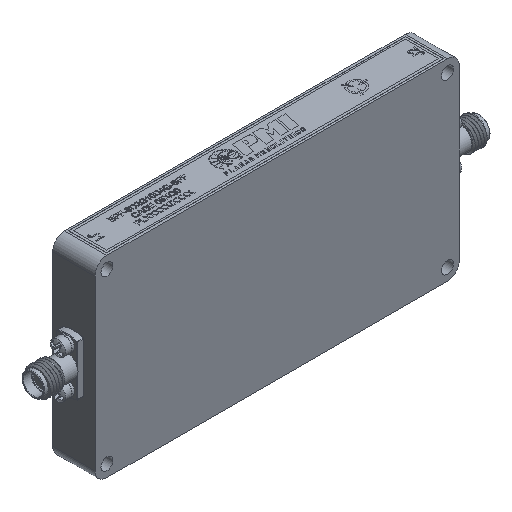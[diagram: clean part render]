
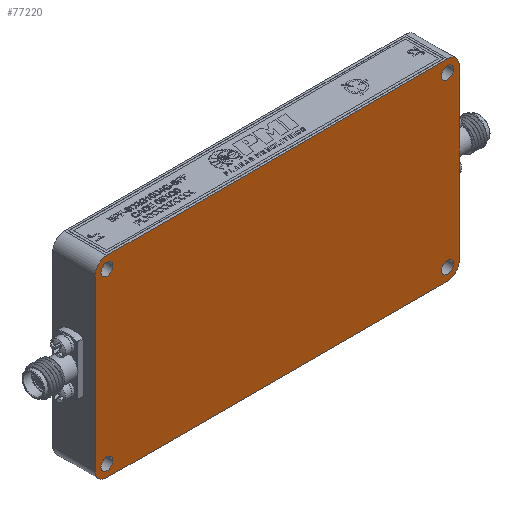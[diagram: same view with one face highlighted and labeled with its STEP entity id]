
A CAD part, isometric view. The second image highlights one B-rep face of the part: STEP entity #77220.
In plain terms, the highlighted planar face has unit normal (0, -1, 0).
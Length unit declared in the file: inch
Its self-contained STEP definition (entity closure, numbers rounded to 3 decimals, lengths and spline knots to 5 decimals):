
#216 = EDGE_LOOP ( 'NONE', ( #98102 ) ) ;
#788 = CARTESIAN_POINT ( 'NONE',  ( 1.565, -0.195, -0.775 ) ) ;
#1784 = CARTESIAN_POINT ( 'NONE',  ( -1.565, -0.195, -0.775 ) ) ;
#2622 = ORIENTED_EDGE ( 'NONE', *, *, #57737, .T. ) ;
#2952 = CARTESIAN_POINT ( 'NONE',  ( -1.675, -0.195, 0.775 ) ) ;
#3123 = AXIS2_PLACEMENT_3D ( 'NONE', #46114, #77394, #7292 ) ;
#5488 = AXIS2_PLACEMENT_3D ( 'NONE', #788, #31910, #25223 ) ;
#7123 = CARTESIAN_POINT ( 'NONE',  ( 1.565, -0.195, 0.83 ) ) ;
#7156 = FACE_BOUND ( 'NONE', #29435, .T. ) ;
#7292 = DIRECTION ( 'NONE',  ( 0., 0., 1. ) ) ;
#8162 = PLANE ( 'NONE',  #32222 ) ;
#9405 = AXIS2_PLACEMENT_3D ( 'NONE', #1784, #32916, #95381 ) ;
#10302 = CIRCLE ( 'NONE', #5488, 0.11 ) ;
#11641 = CIRCLE ( 'NONE', #27942, 0.055 ) ;
#11966 = VERTEX_POINT ( 'NONE', #28388 ) ;
#13132 = AXIS2_PLACEMENT_3D ( 'NONE', #17347, #55175, #16839 ) ;
#14658 = CARTESIAN_POINT ( 'NONE',  ( 1.675, -0.195, 0.775 ) ) ;
#15257 = CARTESIAN_POINT ( 'NONE',  ( -1.675, -0.195, 0.885 ) ) ;
#15273 = EDGE_CURVE ( 'NONE', #87239, #20211, #53083, .T. ) ;
#15986 = DIRECTION ( 'NONE',  ( 0., 1., 0. ) ) ;
#16561 = ORIENTED_EDGE ( 'NONE', *, *, #15273, .F. ) ;
#16839 = DIRECTION ( 'NONE',  ( 0., 0., 1. ) ) ;
#16848 = VECTOR ( 'NONE', #26210, 39.37008 ) ;
#17347 = CARTESIAN_POINT ( 'NONE',  ( -1.565, -0.195, -0.775 ) ) ;
#18791 = CARTESIAN_POINT ( 'NONE',  ( 1.565, -0.195, 0.885 ) ) ;
#18890 = DIRECTION ( 'NONE',  ( 0., -1., 0. ) ) ;
#20034 = LINE ( 'NONE', #35923, #16848 ) ;
#20211 = VERTEX_POINT ( 'NONE', #18791 ) ;
#20969 = CIRCLE ( 'NONE', #3123, 0.055 ) ;
#22967 = FACE_OUTER_BOUND ( 'NONE', #44374, .T. ) ;
#24127 = EDGE_CURVE ( 'NONE', #80388, #20211, #87449, .T. ) ;
#24400 = VERTEX_POINT ( 'NONE', #70010 ) ;
#25223 = DIRECTION ( 'NONE',  ( 0., 0., 1. ) ) ;
#26210 = DIRECTION ( 'NONE',  ( -1., 0., 0. ) ) ;
#27942 = AXIS2_PLACEMENT_3D ( 'NONE', #44652, #29268, #99941 ) ;
#28388 = CARTESIAN_POINT ( 'NONE',  ( 1.565, -0.195, -0.885 ) ) ;
#29268 = DIRECTION ( 'NONE',  ( 0., 1., 0. ) ) ;
#29435 = EDGE_LOOP ( 'NONE', ( #36887 ) ) ;
#31126 = CARTESIAN_POINT ( 'NONE',  ( 1.565, -0.195, -0.72 ) ) ;
#31910 = DIRECTION ( 'NONE',  ( 0., -1., 0. ) ) ;
#32222 = AXIS2_PLACEMENT_3D ( 'NONE', #48527, #34183, #71589 ) ;
#32916 = DIRECTION ( 'NONE',  ( 0., 1., 0. ) ) ;
#33242 = DIRECTION ( 'NONE',  ( 0., 0., 1. ) ) ;
#33575 = ORIENTED_EDGE ( 'NONE', *, *, #74613, .F. ) ;
#34183 = DIRECTION ( 'NONE',  ( 0., 1., 0. ) ) ;
#35446 = VERTEX_POINT ( 'NONE', #83778 ) ;
#35923 = CARTESIAN_POINT ( 'NONE',  ( -1.675, -0.195, -0.885 ) ) ;
#36887 = ORIENTED_EDGE ( 'NONE', *, *, #53190, .T. ) ;
#37317 = VERTEX_POINT ( 'NONE', #87546 ) ;
#38323 = VERTEX_POINT ( 'NONE', #31126 ) ;
#40014 = AXIS2_PLACEMENT_3D ( 'NONE', #89059, #18890, #33242 ) ;
#40270 = EDGE_CURVE ( 'NONE', #80388, #35446, #53803, .T. ) ;
#42345 = EDGE_CURVE ( 'NONE', #24400, #37317, #44163, .T. ) ;
#43568 = AXIS2_PLACEMENT_3D ( 'NONE', #65398, #96131, #86968 ) ;
#44163 = CIRCLE ( 'NONE', #13132, 0.11 ) ;
#44374 = EDGE_LOOP ( 'NONE', ( #33575, #89341, #90861, #84568, #87476, #73692, #16561, #45945 ) ) ;
#44652 = CARTESIAN_POINT ( 'NONE',  ( 1.565, -0.195, -0.775 ) ) ;
#45170 = DIRECTION ( 'NONE',  ( 0., 0., -1. ) ) ;
#45244 = DIRECTION ( 'NONE',  ( 0., 0., 1. ) ) ;
#45945 = ORIENTED_EDGE ( 'NONE', *, *, #61820, .T. ) ;
#45994 = FACE_BOUND ( 'NONE', #98449, .T. ) ;
#46114 = CARTESIAN_POINT ( 'NONE',  ( -1.565, -0.195, 0.775 ) ) ;
#46482 = VERTEX_POINT ( 'NONE', #7123 ) ;
#47011 = FACE_BOUND ( 'NONE', #216, .T. ) ;
#47108 = CARTESIAN_POINT ( 'NONE',  ( -1.565, -0.195, -0.72 ) ) ;
#48527 = CARTESIAN_POINT ( 'NONE',  ( 0., -0.195, 0. ) ) ;
#49952 = VECTOR ( 'NONE', #84413, 39.37008 ) ;
#50786 = AXIS2_PLACEMENT_3D ( 'NONE', #55325, #15986, #93299 ) ;
#53083 = LINE ( 'NONE', #15257, #49952 ) ;
#53190 = EDGE_CURVE ( 'NONE', #71066, #71066, #20969, .T. ) ;
#53433 = CIRCLE ( 'NONE', #9405, 0.055 ) ;
#53803 = LINE ( 'NONE', #85154, #75496 ) ;
#54103 = CARTESIAN_POINT ( 'NONE',  ( -1.565, -0.195, 0.83 ) ) ;
#55175 = DIRECTION ( 'NONE',  ( 0., -1., 0. ) ) ;
#55325 = CARTESIAN_POINT ( 'NONE',  ( 1.565, -0.195, 0.775 ) ) ;
#57737 = EDGE_CURVE ( 'NONE', #38323, #38323, #11641, .T. ) ;
#57863 = EDGE_CURVE ( 'NONE', #46482, #46482, #83636, .T. ) ;
#59621 = EDGE_LOOP ( 'NONE', ( #2622 ) ) ;
#61500 = CIRCLE ( 'NONE', #43568, 0.11 ) ;
#61820 = EDGE_CURVE ( 'NONE', #87239, #100285, #61500, .T. ) ;
#62080 = CARTESIAN_POINT ( 'NONE',  ( -1.565, -0.195, 0.885 ) ) ;
#65398 = CARTESIAN_POINT ( 'NONE',  ( -1.565, -0.195, 0.775 ) ) ;
#70010 = CARTESIAN_POINT ( 'NONE',  ( -1.675, -0.195, -0.775 ) ) ;
#71066 = VERTEX_POINT ( 'NONE', #54103 ) ;
#71589 = DIRECTION ( 'NONE',  ( 1., 0., 0. ) ) ;
#72922 = VECTOR ( 'NONE', #45244, 39.37008 ) ;
#73692 = ORIENTED_EDGE ( 'NONE', *, *, #24127, .T. ) ;
#74613 = EDGE_CURVE ( 'NONE', #24400, #100285, #76488, .T. ) ;
#75496 = VECTOR ( 'NONE', #45170, 39.37008 ) ;
#76488 = LINE ( 'NONE', #92381, #72922 ) ;
#77220 = ADVANCED_FACE ( 'NONE', ( #45994, #93138, #47011, #7156, #22967 ), #8162, .F. ) ;
#77394 = DIRECTION ( 'NONE',  ( 0., 1., 0. ) ) ;
#80388 = VERTEX_POINT ( 'NONE', #14658 ) ;
#82744 = ORIENTED_EDGE ( 'NONE', *, *, #93192, .T. ) ;
#83636 = CIRCLE ( 'NONE', #50786, 0.055 ) ;
#83778 = CARTESIAN_POINT ( 'NONE',  ( 1.675, -0.195, -0.775 ) ) ;
#84413 = DIRECTION ( 'NONE',  ( 1., 0., 0. ) ) ;
#84568 = ORIENTED_EDGE ( 'NONE', *, *, #87404, .T. ) ;
#85154 = CARTESIAN_POINT ( 'NONE',  ( 1.675, -0.195, -0.885 ) ) ;
#86968 = DIRECTION ( 'NONE',  ( 0., 0., 1. ) ) ;
#87239 = VERTEX_POINT ( 'NONE', #62080 ) ;
#87404 = EDGE_CURVE ( 'NONE', #11966, #35446, #10302, .T. ) ;
#87449 = CIRCLE ( 'NONE', #40014, 0.11 ) ;
#87473 = EDGE_CURVE ( 'NONE', #11966, #37317, #20034, .T. ) ;
#87476 = ORIENTED_EDGE ( 'NONE', *, *, #40270, .F. ) ;
#87546 = CARTESIAN_POINT ( 'NONE',  ( -1.565, -0.195, -0.885 ) ) ;
#89059 = CARTESIAN_POINT ( 'NONE',  ( 1.565, -0.195, 0.775 ) ) ;
#89341 = ORIENTED_EDGE ( 'NONE', *, *, #42345, .T. ) ;
#90861 = ORIENTED_EDGE ( 'NONE', *, *, #87473, .F. ) ;
#92381 = CARTESIAN_POINT ( 'NONE',  ( -1.675, -0.195, -0.885 ) ) ;
#93138 = FACE_BOUND ( 'NONE', #59621, .T. ) ;
#93192 = EDGE_CURVE ( 'NONE', #95237, #95237, #53433, .T. ) ;
#93299 = DIRECTION ( 'NONE',  ( 0., 0., 1. ) ) ;
#95237 = VERTEX_POINT ( 'NONE', #47108 ) ;
#95381 = DIRECTION ( 'NONE',  ( 0., 0., 1. ) ) ;
#96131 = DIRECTION ( 'NONE',  ( 0., -1., 0. ) ) ;
#98102 = ORIENTED_EDGE ( 'NONE', *, *, #57863, .T. ) ;
#98449 = EDGE_LOOP ( 'NONE', ( #82744 ) ) ;
#99941 = DIRECTION ( 'NONE',  ( 0., 0., 1. ) ) ;
#100285 = VERTEX_POINT ( 'NONE', #2952 ) ;
